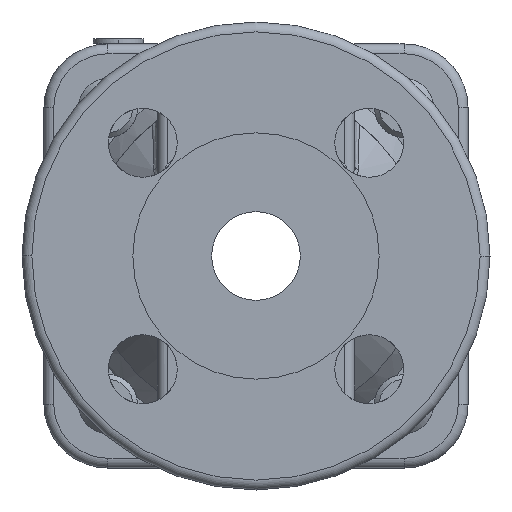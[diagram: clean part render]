
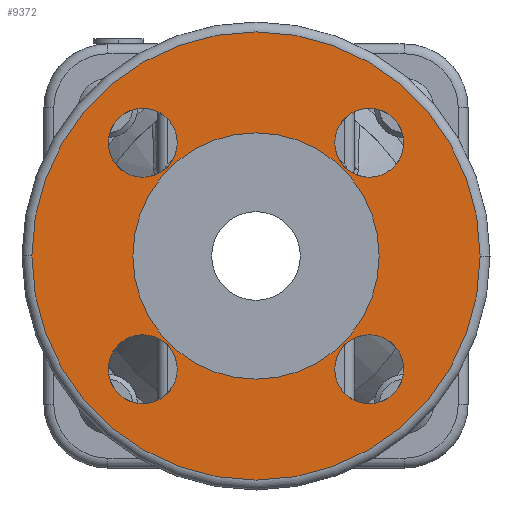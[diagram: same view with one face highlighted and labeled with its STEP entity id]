
A CAD part, left-side view. The second image highlights one B-rep face of the part: STEP entity #9372.
In plain terms, the highlighted planar face has unit normal (-1, 0, 0).
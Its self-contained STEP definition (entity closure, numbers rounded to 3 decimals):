
#1925=CARTESIAN_POINT('',(-39.,0.,0.));
#1926=DIRECTION('',(1.,0.,0.));
#1927=DIRECTION('',(0.,1.,0.));
#1928=AXIS2_PLACEMENT_3D('',#1925,#1926,#1927);
#1930=CARTESIAN_POINT('',(-39.,0.,0.));
#1931=DIRECTION('',(1.,0.,0.));
#1932=DIRECTION('',(0.,-1.,0.));
#1933=AXIS2_PLACEMENT_3D('',#1930,#1931,#1932);
#1935=CARTESIAN_POINT('',(-39.,22.981,22.981));
#1936=DIRECTION('',(-1.,0.,0.));
#1937=DIRECTION('',(0.,-1.,0.));
#1938=AXIS2_PLACEMENT_3D('',#1935,#1936,#1937);
#1940=CARTESIAN_POINT('',(-39.,22.981,22.981));
#1941=DIRECTION('',(-1.,0.,0.));
#1942=DIRECTION('',(0.,1.,0.));
#1943=AXIS2_PLACEMENT_3D('',#1940,#1941,#1942);
#1945=CARTESIAN_POINT('',(-39.,22.981,-22.981));
#1946=DIRECTION('',(-1.,0.,0.));
#1947=DIRECTION('',(0.,0.,1.));
#1948=AXIS2_PLACEMENT_3D('',#1945,#1946,#1947);
#1950=CARTESIAN_POINT('',(-39.,22.981,-22.981));
#1951=DIRECTION('',(-1.,0.,0.));
#1952=DIRECTION('',(0.,0.,-1.));
#1953=AXIS2_PLACEMENT_3D('',#1950,#1951,#1952);
#1955=CARTESIAN_POINT('',(-39.,-22.981,-22.981));
#1956=DIRECTION('',(-1.,0.,0.));
#1957=DIRECTION('',(0.,1.,0.));
#1958=AXIS2_PLACEMENT_3D('',#1955,#1956,#1957);
#1960=CARTESIAN_POINT('',(-39.,-22.981,-22.981));
#1961=DIRECTION('',(-1.,0.,0.));
#1962=DIRECTION('',(0.,-1.,0.));
#1963=AXIS2_PLACEMENT_3D('',#1960,#1961,#1962);
#1965=CARTESIAN_POINT('',(-39.,-22.981,22.981));
#1966=DIRECTION('',(-1.,0.,0.));
#1967=DIRECTION('',(0.,0.,-1.));
#1968=AXIS2_PLACEMENT_3D('',#1965,#1966,#1967);
#1970=CARTESIAN_POINT('',(-39.,-22.981,22.981));
#1971=DIRECTION('',(-1.,0.,0.));
#1972=DIRECTION('',(0.,0.,1.));
#1973=AXIS2_PLACEMENT_3D('',#1970,#1971,#1972);
#1975=CARTESIAN_POINT('',(-39.,0.,0.));
#1976=DIRECTION('',(-1.,0.,0.));
#1977=DIRECTION('',(0.,1.,0.));
#1978=AXIS2_PLACEMENT_3D('',#1975,#1976,#1977);
#1980=CARTESIAN_POINT('',(-39.,0.,0.));
#1981=DIRECTION('',(-1.,0.,0.));
#1982=DIRECTION('',(0.,-1.,0.));
#1983=AXIS2_PLACEMENT_3D('',#1980,#1981,#1982);
#5661=CARTESIAN_POINT('',(-39.,15.981,22.981));
#5662=CARTESIAN_POINT('',(-39.,29.981,22.981));
#5663=VERTEX_POINT('',#5661);
#5664=VERTEX_POINT('',#5662);
#5665=CARTESIAN_POINT('',(-39.,22.981,-15.981));
#5666=CARTESIAN_POINT('',(-39.,22.981,-29.981));
#5667=VERTEX_POINT('',#5665);
#5668=VERTEX_POINT('',#5666);
#5669=CARTESIAN_POINT('',(-39.,-15.981,-22.981));
#5670=CARTESIAN_POINT('',(-39.,-29.981,-22.981));
#5671=VERTEX_POINT('',#5669);
#5672=VERTEX_POINT('',#5670);
#5673=CARTESIAN_POINT('',(-39.,-22.981,15.981));
#5674=CARTESIAN_POINT('',(-39.,-22.981,29.981));
#5675=VERTEX_POINT('',#5673);
#5676=VERTEX_POINT('',#5674);
#5677=CARTESIAN_POINT('',(-39.,45.5,0.));
#5678=CARTESIAN_POINT('',(-39.,-45.5,0.));
#5679=VERTEX_POINT('',#5677);
#5680=VERTEX_POINT('',#5678);
#6553=CARTESIAN_POINT('',(-39.,25.,0.));
#6554=CARTESIAN_POINT('',(-39.,-25.,0.));
#6555=VERTEX_POINT('',#6553);
#6556=VERTEX_POINT('',#6554);
#9333=CARTESIAN_POINT('',(-39.,0.,0.));
#9334=DIRECTION('',(1.,0.,0.));
#9335=DIRECTION('',(0.,1.,0.));
#9336=AXIS2_PLACEMENT_3D('',#9333,#9334,#9335);
#9337=PLANE('',#9336);
#9339=ORIENTED_EDGE('',*,*,#9338,.T.);
#9341=ORIENTED_EDGE('',*,*,#9340,.T.);
#9342=EDGE_LOOP('',(#9339,#9341));
#9343=FACE_OUTER_BOUND('',#9342,.F.);
#9345=ORIENTED_EDGE('',*,*,#9344,.T.);
#9347=ORIENTED_EDGE('',*,*,#9346,.T.);
#9348=EDGE_LOOP('',(#9345,#9347));
#9349=FACE_BOUND('',#9348,.F.);
#9350=ORIENTED_EDGE('',*,*,#9313,.T.);
#9351=ORIENTED_EDGE('',*,*,#9327,.T.);
#9352=EDGE_LOOP('',(#9350,#9351));
#9353=FACE_BOUND('',#9352,.F.);
#9355=ORIENTED_EDGE('',*,*,#9354,.T.);
#9357=ORIENTED_EDGE('',*,*,#9356,.T.);
#9358=EDGE_LOOP('',(#9355,#9357));
#9359=FACE_BOUND('',#9358,.F.);
#9361=ORIENTED_EDGE('',*,*,#9360,.T.);
#9363=ORIENTED_EDGE('',*,*,#9362,.T.);
#9364=EDGE_LOOP('',(#9361,#9363));
#9365=FACE_BOUND('',#9364,.F.);
#9367=ORIENTED_EDGE('',*,*,#9366,.T.);
#9369=ORIENTED_EDGE('',*,*,#9368,.T.);
#9370=EDGE_LOOP('',(#9367,#9369));
#9371=FACE_BOUND('',#9370,.F.);
#9372=ADVANCED_FACE('',(#9343,#9349,#9353,#9359,#9365,#9371),#9337,.F.);
#1929=CIRCLE('',#1928,45.5);
#1934=CIRCLE('',#1933,45.5);
#1939=CIRCLE('',#1938,7.);
#1944=CIRCLE('',#1943,7.);
#1949=CIRCLE('',#1948,7.);
#1954=CIRCLE('',#1953,7.);
#1959=CIRCLE('',#1958,7.);
#1964=CIRCLE('',#1963,7.);
#1969=CIRCLE('',#1968,7.);
#1974=CIRCLE('',#1973,7.);
#1979=CIRCLE('',#1978,25.);
#1984=CIRCLE('',#1983,25.);
#9313=EDGE_CURVE('',#5667,#5668,#1949,.T.);
#9327=EDGE_CURVE('',#5668,#5667,#1954,.T.);
#9338=EDGE_CURVE('',#5679,#5680,#1929,.T.);
#9340=EDGE_CURVE('',#5680,#5679,#1934,.T.);
#9344=EDGE_CURVE('',#5663,#5664,#1939,.T.);
#9346=EDGE_CURVE('',#5664,#5663,#1944,.T.);
#9354=EDGE_CURVE('',#5671,#5672,#1959,.T.);
#9356=EDGE_CURVE('',#5672,#5671,#1964,.T.);
#9360=EDGE_CURVE('',#5675,#5676,#1969,.T.);
#9362=EDGE_CURVE('',#5676,#5675,#1974,.T.);
#9366=EDGE_CURVE('',#6555,#6556,#1979,.T.);
#9368=EDGE_CURVE('',#6556,#6555,#1984,.T.);
